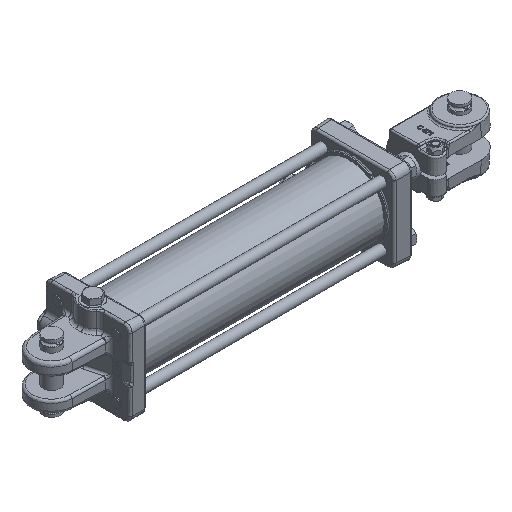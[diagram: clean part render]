
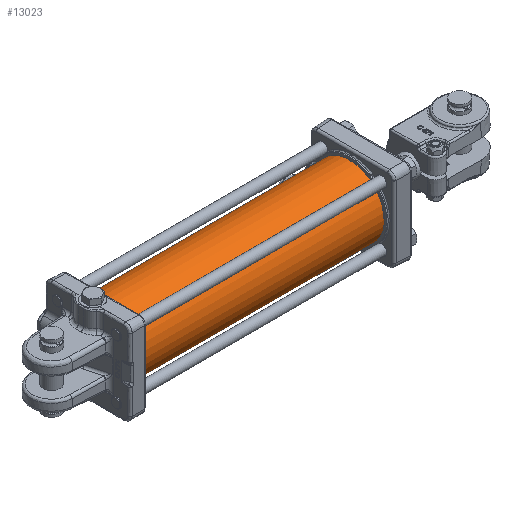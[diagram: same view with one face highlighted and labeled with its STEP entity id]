
A CAD part, isometric view. The second image highlights one B-rep face of the part: STEP entity #13023.
In plain terms, the highlighted cylindrical face has radius 52.388 mm (diameter 104.775 mm), a full revolution.
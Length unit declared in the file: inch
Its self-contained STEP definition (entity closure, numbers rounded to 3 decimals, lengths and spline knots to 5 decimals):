
#2591=CIRCLE($,#13917,2.0625);
#2595=CIRCLE($,#13925,2.0625);
#3388=FACE_BOUND($,#4472,.T.);
#3389=FACE_BOUND($,#4473,.T.);
#3390=FACE_BOUND($,#4474,.T.);
#3391=FACE_BOUND($,#4475,.T.);
#4472=EDGE_LOOP($,(#9068));
#4473=EDGE_LOOP($,(#9069));
#4474=EDGE_LOOP($,(#9070));
#4475=EDGE_LOOP($,(#9071));
#5536=B_SPLINE_CURVE_WITH_KNOTS($,3,(#18643,#18644,#18645,#18646,#18647,
#18648,#18649,#18650,#18651,#18652,#18653,#18654,#18655,#18656,#18657,#18658,
#18659,#18660,#18661,#18662,#18663,#18664,#18665,#18666,#18667,#18668,#18669,
#18670,#18671,#18672,#18673,#18674,#18675,#18676),.UNSPECIFIED.,.T.,.F.,
(4,2,2,2,2,2,2,2,2,2,2,2,2,2,2,2,4),(0.,0.05215,0.10429,
0.15644,0.20859,0.26074,0.31288,
0.36503,0.41718,0.46933,0.52147,
0.57362,0.62577,0.67792,0.73006,
0.78221,0.83436),.UNSPECIFIED.);
#5538=B_SPLINE_CURVE_WITH_KNOTS($,3,(#18714,#18715,#18716,#18717,#18718,
#18719,#18720,#18721,#18722,#18723,#18724,#18725,#18726,#18727,#18728,#18729,
#18730,#18731,#18732,#18733,#18734,#18735,#18736,#18737,#18738,#18739,#18740,
#18741,#18742,#18743,#18744,#18745,#18746,#18747),.UNSPECIFIED.,.T.,.F.,
(4,2,2,2,2,2,2,2,2,2,2,2,2,2,2,2,4),(0.,0.02966,0.05932,
0.08898,0.11864,0.1483,0.17796,
0.20763,0.23729,0.26695,0.29661,
0.32627,0.35593,0.38559,0.41525,
0.44491,0.47457),.UNSPECIFIED.);
#5964=VERTEX_POINT($,#18642);
#5966=VERTEX_POINT($,#18713);
#5968=VERTEX_POINT($,#18751);
#5972=VERTEX_POINT($,#18763);
#7172=EDGE_CURVE($,#5964,#5964,#5536,.T.);
#7174=EDGE_CURVE($,#5966,#5966,#5538,.T.);
#7176=EDGE_CURVE($,#5968,#5968,#2591,.T.);
#7180=EDGE_CURVE($,#5972,#5972,#2595,.T.);
#9068=ORIENTED_EDGE($,*,*,#7172,.T.);
#9069=ORIENTED_EDGE($,*,*,#7174,.T.);
#9070=ORIENTED_EDGE($,*,*,#7176,.F.);
#9071=ORIENTED_EDGE($,*,*,#7180,.T.);
#12817=CYLINDRICAL_SURFACE($,#13926,2.0625);
#13023=ADVANCED_FACE($,(#3388,#3389,#3390,#3391),#12817,.T.);
#13917=AXIS2_PLACEMENT_3D($,#18752,#15249,#15250);
#13925=AXIS2_PLACEMENT_3D($,#18764,#15265,#15266);
#13926=AXIS2_PLACEMENT_3D($,#18765,#15267,#15268);
#15249=DIRECTION('center_axis',(1.,0.,0.));
#15250=DIRECTION('ref_axis',(0.,1.,0.));
#15265=DIRECTION('center_axis',(1.,0.,0.));
#15266=DIRECTION('ref_axis',(0.,1.,0.));
#15267=DIRECTION('center_axis',(1.,0.,0.));
#15268=DIRECTION('ref_axis',(0.,1.,0.));
#18642=CARTESIAN_POINT('',(-0.967,2.06178,0.0545));
#18643=CARTESIAN_POINT('Ctrl Pts',(-0.967,2.06178,0.0545));
#18644=CARTESIAN_POINT('Ctrl Pts',(-0.97384,2.06178,
0.0545));
#18645=CARTESIAN_POINT('Ctrl Pts',(-0.98114,2.06182,
0.05313));
#18646=CARTESIAN_POINT('Ctrl Pts',(-0.99457,2.06195,
0.04757));
#18647=CARTESIAN_POINT('Ctrl Pts',(-1.0007,2.06205,0.04338));
#18648=CARTESIAN_POINT('Ctrl Pts',(-1.01038,2.06223,0.0337));
#18649=CARTESIAN_POINT('Ctrl Pts',(-1.01457,2.06233,0.02757));
#18650=CARTESIAN_POINT('Ctrl Pts',(-1.02013,2.06246,0.01414));
#18651=CARTESIAN_POINT('Ctrl Pts',(-1.0215,2.0625,0.00684));
#18652=CARTESIAN_POINT('Ctrl Pts',(-1.0215,2.0625,-0.00684));
#18653=CARTESIAN_POINT('Ctrl Pts',(-1.02013,2.06246,-0.01414));
#18654=CARTESIAN_POINT('Ctrl Pts',(-1.01457,2.06233,-0.02757));
#18655=CARTESIAN_POINT('Ctrl Pts',(-1.01038,2.06223,-0.0337));
#18656=CARTESIAN_POINT('Ctrl Pts',(-1.0007,2.06205,-0.04338));
#18657=CARTESIAN_POINT('Ctrl Pts',(-0.99457,2.06195,
-0.04757));
#18658=CARTESIAN_POINT('Ctrl Pts',(-0.98114,2.06182,
-0.05313));
#18659=CARTESIAN_POINT('Ctrl Pts',(-0.97384,2.06178,
-0.0545));
#18660=CARTESIAN_POINT('Ctrl Pts',(-0.96016,2.06178,
-0.0545));
#18661=CARTESIAN_POINT('Ctrl Pts',(-0.95286,2.06182,
-0.05313));
#18662=CARTESIAN_POINT('Ctrl Pts',(-0.93943,2.06195,
-0.04757));
#18663=CARTESIAN_POINT('Ctrl Pts',(-0.9333,2.06205,
-0.04338));
#18664=CARTESIAN_POINT('Ctrl Pts',(-0.92362,2.06223,
-0.0337));
#18665=CARTESIAN_POINT('Ctrl Pts',(-0.91943,2.06233,
-0.02757));
#18666=CARTESIAN_POINT('Ctrl Pts',(-0.91387,2.06246,-0.01414));
#18667=CARTESIAN_POINT('Ctrl Pts',(-0.9125,2.0625,-0.00684));
#18668=CARTESIAN_POINT('Ctrl Pts',(-0.9125,2.0625,0.00684));
#18669=CARTESIAN_POINT('Ctrl Pts',(-0.91387,2.06246,0.01414));
#18670=CARTESIAN_POINT('Ctrl Pts',(-0.91943,2.06233,
0.02757));
#18671=CARTESIAN_POINT('Ctrl Pts',(-0.92362,2.06223,
0.0337));
#18672=CARTESIAN_POINT('Ctrl Pts',(-0.9333,2.06205,
0.04338));
#18673=CARTESIAN_POINT('Ctrl Pts',(-0.93943,2.06195,
0.04757));
#18674=CARTESIAN_POINT('Ctrl Pts',(-0.95286,2.06182,
0.05313));
#18675=CARTESIAN_POINT('Ctrl Pts',(-0.96016,2.06178,
0.0545));
#18676=CARTESIAN_POINT('Ctrl Pts',(-0.967,2.06178,0.0545));
#18713=CARTESIAN_POINT('',(-1.347,2.06227,0.031));
#18714=CARTESIAN_POINT('Ctrl Pts',(-1.347,2.06227,0.031));
#18715=CARTESIAN_POINT('Ctrl Pts',(-1.35089,2.06227,0.031));
#18716=CARTESIAN_POINT('Ctrl Pts',(-1.35504,2.06228,0.03022));
#18717=CARTESIAN_POINT('Ctrl Pts',(-1.36268,2.06232,0.02706));
#18718=CARTESIAN_POINT('Ctrl Pts',(-1.36617,2.06235,0.02467));
#18719=CARTESIAN_POINT('Ctrl Pts',(-1.37167,2.06241,0.01917));
#18720=CARTESIAN_POINT('Ctrl Pts',(-1.37406,2.06244,0.01568));
#18721=CARTESIAN_POINT('Ctrl Pts',(-1.37722,2.06249,0.00804));
#18722=CARTESIAN_POINT('Ctrl Pts',(-1.378,2.0625,0.00389));
#18723=CARTESIAN_POINT('Ctrl Pts',(-1.378,2.0625,-0.00389));
#18724=CARTESIAN_POINT('Ctrl Pts',(-1.37722,2.06249,-0.00804));
#18725=CARTESIAN_POINT('Ctrl Pts',(-1.37406,2.06244,-0.01568));
#18726=CARTESIAN_POINT('Ctrl Pts',(-1.37167,2.06241,-0.01917));
#18727=CARTESIAN_POINT('Ctrl Pts',(-1.36617,2.06235,-0.02467));
#18728=CARTESIAN_POINT('Ctrl Pts',(-1.36268,2.06232,-0.02706));
#18729=CARTESIAN_POINT('Ctrl Pts',(-1.35504,2.06228,-0.03022));
#18730=CARTESIAN_POINT('Ctrl Pts',(-1.35089,2.06227,-0.031));
#18731=CARTESIAN_POINT('Ctrl Pts',(-1.34311,2.06227,-0.031));
#18732=CARTESIAN_POINT('Ctrl Pts',(-1.33896,2.06228,-0.03022));
#18733=CARTESIAN_POINT('Ctrl Pts',(-1.33132,2.06232,-0.02706));
#18734=CARTESIAN_POINT('Ctrl Pts',(-1.32783,2.06235,-0.02467));
#18735=CARTESIAN_POINT('Ctrl Pts',(-1.32233,2.06241,-0.01917));
#18736=CARTESIAN_POINT('Ctrl Pts',(-1.31994,2.06244,-0.01568));
#18737=CARTESIAN_POINT('Ctrl Pts',(-1.31678,2.06249,-0.00804));
#18738=CARTESIAN_POINT('Ctrl Pts',(-1.316,2.0625,-0.00389));
#18739=CARTESIAN_POINT('Ctrl Pts',(-1.316,2.0625,0.00389));
#18740=CARTESIAN_POINT('Ctrl Pts',(-1.31678,2.06249,0.00804));
#18741=CARTESIAN_POINT('Ctrl Pts',(-1.31994,2.06244,0.01568));
#18742=CARTESIAN_POINT('Ctrl Pts',(-1.32233,2.06241,0.01917));
#18743=CARTESIAN_POINT('Ctrl Pts',(-1.32783,2.06235,0.02467));
#18744=CARTESIAN_POINT('Ctrl Pts',(-1.33132,2.06232,0.02706));
#18745=CARTESIAN_POINT('Ctrl Pts',(-1.33896,2.06228,0.03022));
#18746=CARTESIAN_POINT('Ctrl Pts',(-1.34311,2.06227,0.031));
#18747=CARTESIAN_POINT('Ctrl Pts',(-1.347,2.06227,0.031));
#18751=CARTESIAN_POINT('',(0.,2.0625,0.));
#18752=CARTESIAN_POINT('Origin',(0.,0.,0.));
#18763=CARTESIAN_POINT('',(-14.46875,2.0625,0.));
#18764=CARTESIAN_POINT('Origin',(-14.46875,0.,0.));
#18765=CARTESIAN_POINT('Origin',(-7.23438,0.,0.));
